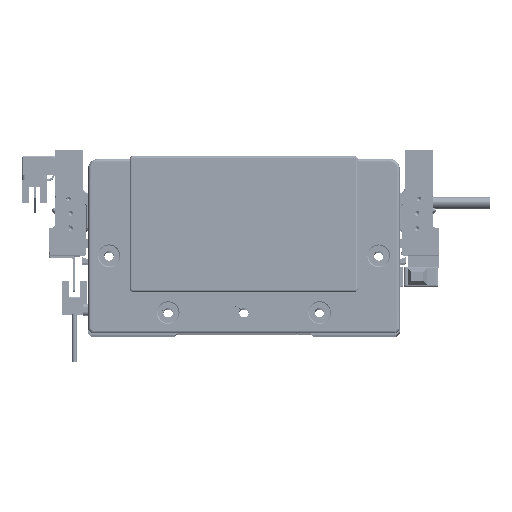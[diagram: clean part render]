
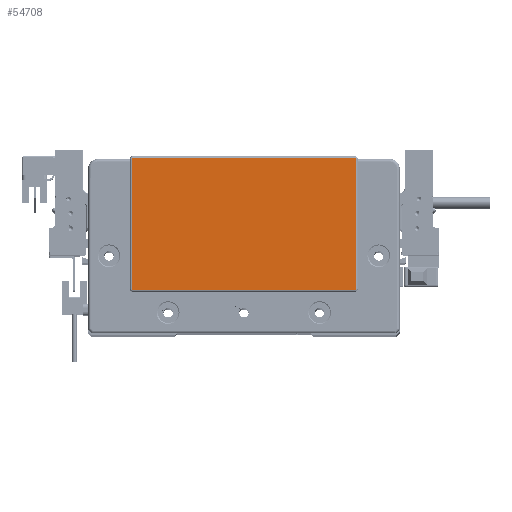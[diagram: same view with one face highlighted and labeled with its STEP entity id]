
A CAD part, top view. The second image highlights one B-rep face of the part: STEP entity #54708.
In plain terms, the highlighted planar face has unit normal (0, 0, 1) as drawn and (0, 0, -1) by its records, which use the part's own axes.
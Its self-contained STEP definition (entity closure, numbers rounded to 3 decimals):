
#211 = DIRECTION ( 'NONE',  ( 0., 1., 0. ) ) ;
#968 = ORIENTED_EDGE ( 'NONE', *, *, #64463, .T. ) ;
#3309 = DIRECTION ( 'NONE',  ( -1., 0., 0. ) ) ;
#3475 = ORIENTED_EDGE ( 'NONE', *, *, #76526, .T. ) ;
#3512 = DIRECTION ( 'NONE',  ( -1., 0., 0. ) ) ;
#5832 = DIRECTION ( 'NONE',  ( 1., 0., 0. ) ) ;
#7849 = VERTEX_POINT ( 'NONE', #60820 ) ;
#9825 = DIRECTION ( 'NONE',  ( 0., 0., -1. ) ) ;
#10388 = ORIENTED_EDGE ( 'NONE', *, *, #74636, .T. ) ;
#10537 = LINE ( 'NONE', #29126, #56047 ) ;
#10551 = CIRCLE ( 'NONE', #21339, 0.5 ) ;
#12168 = LINE ( 'NONE', #43419, #17025 ) ;
#13803 = CARTESIAN_POINT ( 'NONE',  ( 58.75, 45.8, -2. ) ) ;
#14487 = LINE ( 'NONE', #40665, #64784 ) ;
#16229 = DIRECTION ( 'NONE',  ( -1., 0., 0. ) ) ;
#17025 = VECTOR ( 'NONE', #5832, 1000. ) ;
#18190 = AXIS2_PLACEMENT_3D ( 'NONE', #21944, #35856, #35447 ) ;
#20872 = VERTEX_POINT ( 'NONE', #79376 ) ;
#21022 = CIRCLE ( 'NONE', #38558, 0.5 ) ;
#21339 = AXIS2_PLACEMENT_3D ( 'NONE', #75848, #36990, #81742 ) ;
#21854 = DIRECTION ( 'NONE',  ( 0., 0., -1. ) ) ;
#21944 = CARTESIAN_POINT ( 'NONE',  ( -58.75, -23.3, -2. ) ) ;
#23075 = VERTEX_POINT ( 'NONE', #13803 ) ;
#23430 = AXIS2_PLACEMENT_3D ( 'NONE', #63579, #69944, #37420 ) ;
#25148 = PLANE ( 'NONE',  #23430 ) ;
#26133 = VERTEX_POINT ( 'NONE', #49164 ) ;
#26695 = CARTESIAN_POINT ( 'NONE',  ( -59.25, -23.3, -2. ) ) ;
#29126 = CARTESIAN_POINT ( 'NONE',  ( 59.25, -23.3, -2. ) ) ;
#29573 = ORIENTED_EDGE ( 'NONE', *, *, #67044, .T. ) ;
#32964 = CIRCLE ( 'NONE', #18190, 0.5 ) ;
#33724 = EDGE_CURVE ( 'NONE', #23075, #56965, #37004, .T. ) ;
#34635 = DIRECTION ( 'NONE',  ( 0., -1., 0. ) ) ;
#34761 = VECTOR ( 'NONE', #16229, 1000. ) ;
#35447 = DIRECTION ( 'NONE',  ( -1., 0., 0. ) ) ;
#35764 = CARTESIAN_POINT ( 'NONE',  ( 58.75, -23.3, -2. ) ) ;
#35856 = DIRECTION ( 'NONE',  ( 0., 0., -1. ) ) ;
#36990 = DIRECTION ( 'NONE',  ( 0., 0., -1. ) ) ;
#37004 = CIRCLE ( 'NONE', #65324, 0.5 ) ;
#37420 = DIRECTION ( 'NONE',  ( -1., 0., 0. ) ) ;
#38558 = AXIS2_PLACEMENT_3D ( 'NONE', #35764, #21854, #3309 ) ;
#40665 = CARTESIAN_POINT ( 'NONE',  ( -59.25, 45.3, -2. ) ) ;
#42173 = CARTESIAN_POINT ( 'NONE',  ( 58.75, -23.8, -2. ) ) ;
#42373 = CARTESIAN_POINT ( 'NONE',  ( -58.75, -23.8, -2. ) ) ;
#43419 = CARTESIAN_POINT ( 'NONE',  ( 58.75, 45.8, -2. ) ) ;
#43696 = CARTESIAN_POINT ( 'NONE',  ( -59.25, 45.3, -2. ) ) ;
#44379 = VERTEX_POINT ( 'NONE', #43696 ) ;
#49164 = CARTESIAN_POINT ( 'NONE',  ( -58.75, 45.8, -2. ) ) ;
#49400 = EDGE_CURVE ( 'NONE', #26133, #23075, #12168, .T. ) ;
#49694 = FACE_OUTER_BOUND ( 'NONE', #81472, .T. ) ;
#50336 = EDGE_CURVE ( 'NONE', #82609, #7849, #73657, .T. ) ;
#50700 = VERTEX_POINT ( 'NONE', #26695 ) ;
#51167 = CARTESIAN_POINT ( 'NONE',  ( 59.25, 45.3, -2. ) ) ;
#53983 = ORIENTED_EDGE ( 'NONE', *, *, #66696, .T. ) ;
#54708 = ADVANCED_FACE ( 'NONE', ( #49694 ), #25148, .T. ) ;
#56047 = VECTOR ( 'NONE', #34635, 1000. ) ;
#56965 = VERTEX_POINT ( 'NONE', #51167 ) ;
#58480 = ORIENTED_EDGE ( 'NONE', *, *, #50336, .T. ) ;
#60820 = CARTESIAN_POINT ( 'NONE',  ( -58.75, -23.8, -2. ) ) ;
#63579 = CARTESIAN_POINT ( 'NONE',  ( 0., 0., -2. ) ) ;
#64463 = EDGE_CURVE ( 'NONE', #7849, #50700, #32964, .T. ) ;
#64784 = VECTOR ( 'NONE', #211, 1000. ) ;
#65324 = AXIS2_PLACEMENT_3D ( 'NONE', #80329, #9825, #3512 ) ;
#66696 = EDGE_CURVE ( 'NONE', #56965, #20872, #10537, .T. ) ;
#67044 = EDGE_CURVE ( 'NONE', #20872, #82609, #21022, .T. ) ;
#69944 = DIRECTION ( 'NONE',  ( 0., 0., -1. ) ) ;
#70448 = ORIENTED_EDGE ( 'NONE', *, *, #49400, .T. ) ;
#71813 = ORIENTED_EDGE ( 'NONE', *, *, #33724, .T. ) ;
#73657 = LINE ( 'NONE', #42373, #34761 ) ;
#74636 = EDGE_CURVE ( 'NONE', #44379, #26133, #10551, .T. ) ;
#75848 = CARTESIAN_POINT ( 'NONE',  ( -58.75, 45.3, -2. ) ) ;
#76526 = EDGE_CURVE ( 'NONE', #50700, #44379, #14487, .T. ) ;
#79376 = CARTESIAN_POINT ( 'NONE',  ( 59.25, -23.3, -2. ) ) ;
#80329 = CARTESIAN_POINT ( 'NONE',  ( 58.75, 45.3, -2. ) ) ;
#81472 = EDGE_LOOP ( 'NONE', ( #53983, #29573, #58480, #968, #3475, #10388, #70448, #71813 ) ) ;
#81742 = DIRECTION ( 'NONE',  ( -1., 0., 0. ) ) ;
#82609 = VERTEX_POINT ( 'NONE', #42173 ) ;
